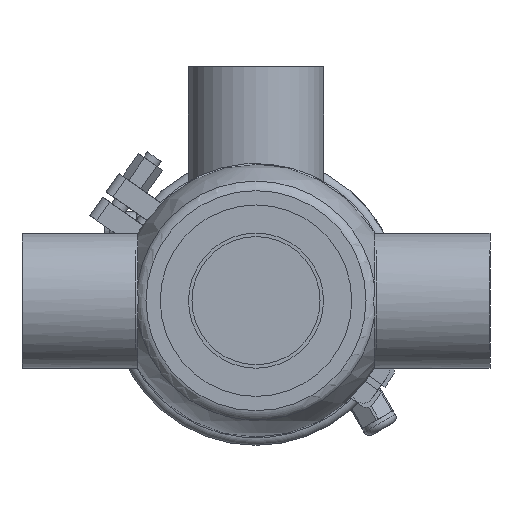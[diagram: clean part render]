
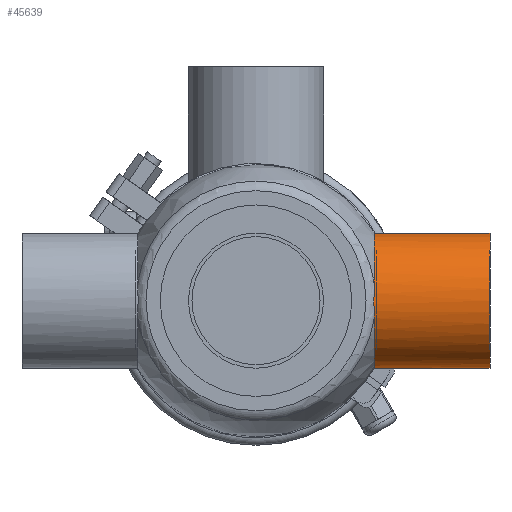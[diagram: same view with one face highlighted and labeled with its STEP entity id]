
A CAD part, front view. The second image highlights one B-rep face of the part: STEP entity #45639.
In plain terms, the highlighted cylindrical face has radius 31.75 mm (diameter 63.5 mm), a full revolution.
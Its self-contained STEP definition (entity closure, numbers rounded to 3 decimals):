
#697 = AXIS2_PLACEMENT_3D ( 'NONE', #39383, #24478, #29100 ) ;
#1814 = EDGE_LOOP ( 'NONE', ( #49104, #19597 ) ) ;
#2116 = CARTESIAN_POINT ( 'NONE',  ( 55.532, -31.295, -5.534 ) ) ;
#2769 = FACE_OUTER_BOUND ( 'NONE', #1814, .T. ) ;
#5914 = CARTESIAN_POINT ( 'NONE',  ( 55.569, -30.657, -8.258 ) ) ;
#12257 = CARTESIAN_POINT ( 'NONE',  ( 55.569, -31.022, -6.903 ) ) ;
#12298 = CARTESIAN_POINT ( 'NONE',  ( 55.569, 0., 0. ) ) ;
#12341 = DIRECTION ( 'NONE',  ( 0., 0., 1. ) ) ;
#12879 = CARTESIAN_POINT ( 'NONE',  ( 55.483, -31.569, -3.456 ) ) ;
#15931 = VERTEX_POINT ( 'NONE', #31530 ) ;
#17514 = CARTESIAN_POINT ( 'NONE',  ( 55.447, -31.729, -1.361 ) ) ;
#17635 = VERTEX_POINT ( 'NONE', #18242 ) ;
#17814 = VERTEX_POINT ( 'NONE', #5914 ) ;
#18242 = CARTESIAN_POINT ( 'NONE',  ( 110., 0., 31.75 ) ) ;
#18626 = AXIS2_PLACEMENT_3D ( 'NONE', #54873, #55178, #12341 ) ;
#19597 = ORIENTED_EDGE ( 'NONE', *, *, #55249, .T. ) ;
#24116 = CIRCLE ( 'NONE', #30985, 31.75 ) ;
#24478 = DIRECTION ( 'NONE',  ( -1., 0., 0. ) ) ;
#26245 = CARTESIAN_POINT ( 'NONE',  ( 55.569, -30.657, 8.258 ) ) ;
#27592 = EDGE_CURVE ( 'NONE', #17814, #15931, #24116, .T. ) ;
#29100 = DIRECTION ( 'NONE',  ( 0., 0., 1. ) ) ;
#30985 = AXIS2_PLACEMENT_3D ( 'NONE', #12298, #50157, #59203 ) ;
#31199 = CARTESIAN_POINT ( 'NONE',  ( 55.569, -30.657, -8.258 ) ) ;
#31530 = CARTESIAN_POINT ( 'NONE',  ( 55.569, -30.657, 8.258 ) ) ;
#31615 = B_SPLINE_CURVE_WITH_KNOTS ( 'NONE', 3,
 ( #26245, #40548, #59463, #41166, #35844, #60052, #17514, #36474, #12879, #2116, #12257, #31199 ),
 .UNSPECIFIED., .F., .F.,
 ( 4, 2, 2, 2, 2, 4 ),
 ( 0., 0.004, 0.008, 0.01, 0.012, 0.017 ),
 .UNSPECIFIED. ) ;
#32423 = EDGE_CURVE ( 'NONE', #17635, #17635, #48240, .T. ) ;
#35844 = CARTESIAN_POINT ( 'NONE',  ( 55.442, -31.749, 1.419 ) ) ;
#36234 = CYLINDRICAL_SURFACE ( 'NONE', #18626, 31.75 ) ;
#36474 = CARTESIAN_POINT ( 'NONE',  ( 55.468, -31.638, -2.759 ) ) ;
#39383 = CARTESIAN_POINT ( 'NONE',  ( 110., 0., 0. ) ) ;
#40548 = CARTESIAN_POINT ( 'NONE',  ( 55.569, -31.022, 6.904 ) ) ;
#41166 = CARTESIAN_POINT ( 'NONE',  ( 55.468, -31.657, 2.799 ) ) ;
#45639 = ADVANCED_FACE ( 'NONE', ( #2769, #59534 ), #36234, .T. ) ;
#47339 = ORIENTED_EDGE ( 'NONE', *, *, #32423, .T. ) ;
#48240 = CIRCLE ( 'NONE', #697, 31.75 ) ;
#49104 = ORIENTED_EDGE ( 'NONE', *, *, #27592, .T. ) ;
#49118 = EDGE_LOOP ( 'NONE', ( #47339 ) ) ;
#50157 = DIRECTION ( 'NONE',  ( 1., 0., 0. ) ) ;
#54873 = CARTESIAN_POINT ( 'NONE',  ( 0., 0., 0. ) ) ;
#55178 = DIRECTION ( 'NONE',  ( -1., 0., 0. ) ) ;
#55249 = EDGE_CURVE ( 'NONE', #15931, #17814, #31615, .T. ) ;
#59203 = DIRECTION ( 'NONE',  ( 0., 0., 1. ) ) ;
#59463 = CARTESIAN_POINT ( 'NONE',  ( 55.532, -31.293, 5.541 ) ) ;
#59534 = FACE_OUTER_BOUND ( 'NONE', #49118, .T. ) ;
#60052 = CARTESIAN_POINT ( 'NONE',  ( 55.442, -31.751, -0.664 ) ) ;
